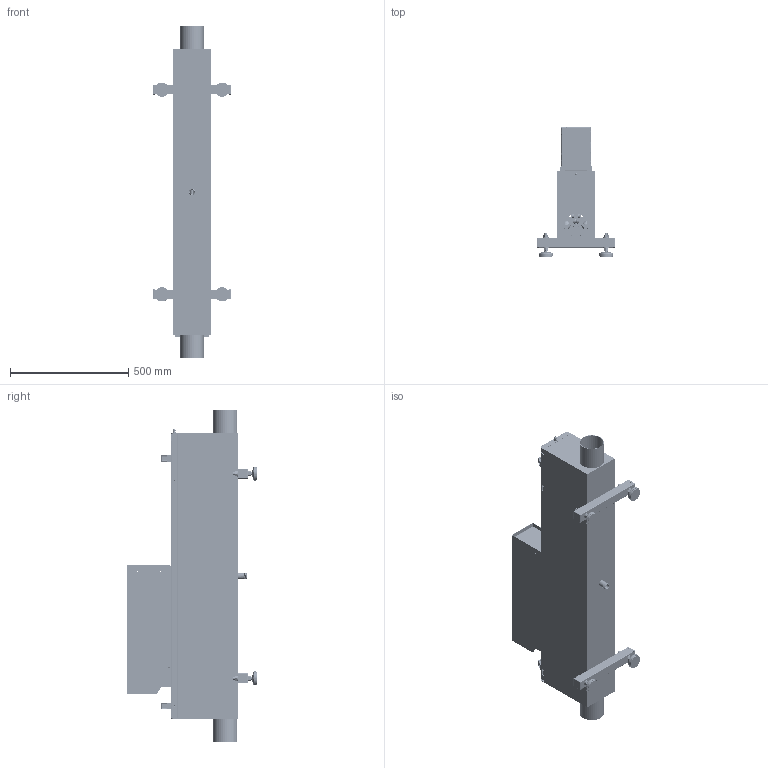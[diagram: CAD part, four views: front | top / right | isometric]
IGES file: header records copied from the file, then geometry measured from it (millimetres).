
Start section: SolidWorks IGES file using analytic representation for surfaces
Global section: file name: D:\00 - ENGENHARIA_AUXTRAT\Engenharia_Auxtrat_Julho_19\PROJETOS\MINI CANAL\MINI CANAL 2X75W\ARQUIVOS EM DWG\MINI CANAL 2X75 MONTAGEM.IGS; native system: SolidWorks 2020; preprocessor: SolidWorks 2020; author: Projetos; date: 200812.083558; units: millimetre
Bounding box: 328 x 549.5 x 1401 mm (x, y, z)
Surface area: 5475249.5 mm2 (no closed solid volume)
Topology: 0 solids, 0 shells, 6885 faces, 123714 edges, 123669 vertices
Faces by surface type: revolution 4346, bspline 2539
